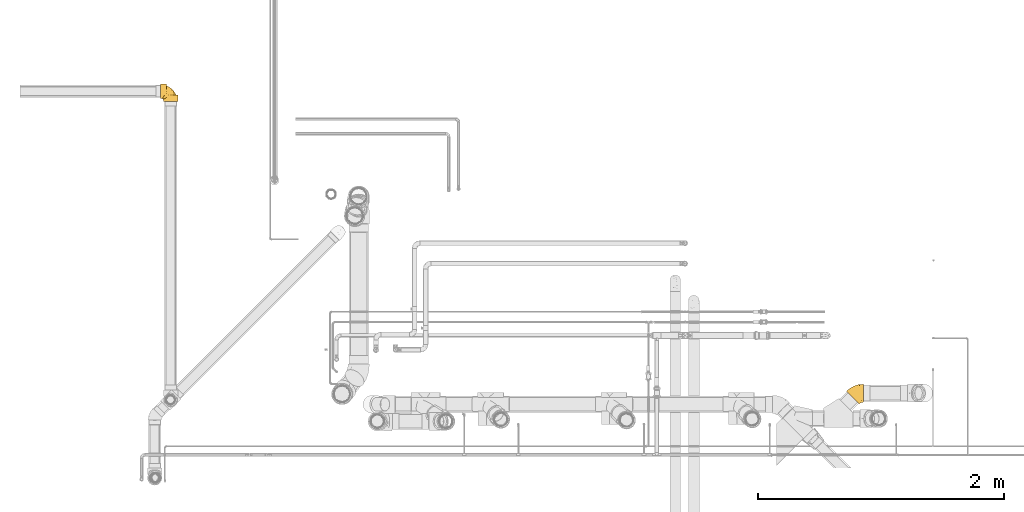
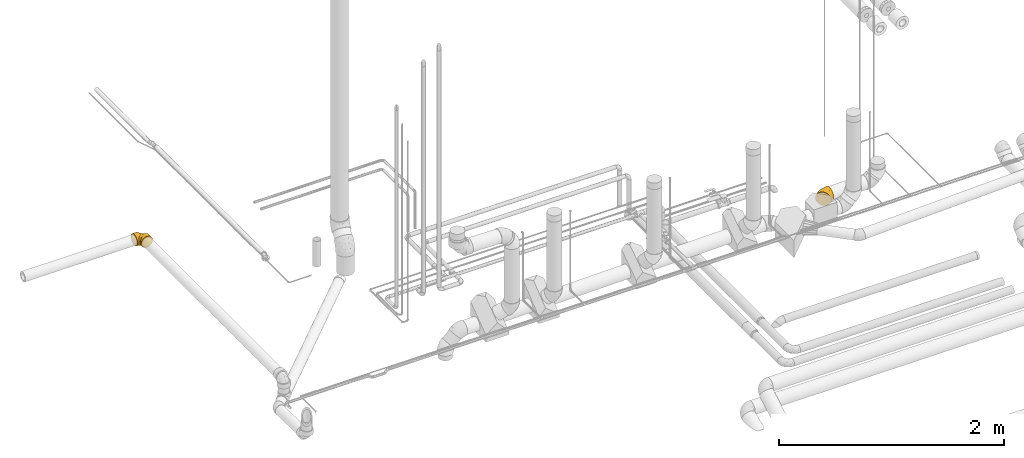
# One storey, part 27 of 156: 2 coverings.
"""IFC2X3 building model written with IfcOpenShell, lengths in millimetres."""

from ifc_helpers import new_model, entity, si_unit, converted_unit, derived_unit, direction, frame, origin_with_axes, place, context, subcontext, project, spatial, open_shell, surface_model, source, transform, mapped, element, save


model = new_model("IFC2X3")

# Units and contexts
model_context = context("Model", 3, precision=0.01, world=frame((0.0, 4.29681676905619e-09, 0.0)), true_north=direction((4.01073788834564e-13, 1.0)))
plan_context = context("Plan", 3, precision=0.01, world=frame((0.0, 4.29681676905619e-09, 0.0)), true_north=direction((4.01073788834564e-13, 1.0)))
body_context = subcontext(model_context, "Body", "Model", "MODEL_VIEW")
ifc_project = project(units=[converted_unit("PLANEANGLEUNIT", "DEGREE", entity("IfcPositiveLengthMeasure", 0.0174532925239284), si_unit("PLANEANGLEUNIT", "RADIAN"), dimensions=[0, 0, 0, 0, 0, 0, 0]), si_unit("AREAUNIT", "SQUARE_METRE"), si_unit("LENGTHUNIT", "METRE", prefix="MILLI"), si_unit("MASSUNIT", "GRAM", prefix="KILO"), si_unit("POWERUNIT", "WATT"), si_unit("PRESSUREUNIT", "PASCAL", prefix="KILO"), si_unit("FORCEUNIT", "NEWTON", prefix="KILO"), si_unit("ELECTRICVOLTAGEUNIT", "VOLT"), si_unit("ELECTRICCURRENTUNIT", "AMPERE"), si_unit("THERMODYNAMICTEMPERATUREUNIT", "DEGREE_CELSIUS"), si_unit("TIMEUNIT", "SECOND"), si_unit("VOLUMEUNIT", "CUBIC_METRE"), derived_unit("LINEARVELOCITYUNIT", [(si_unit("LENGTHUNIT", "METRE"), 1), (si_unit("TIMEUNIT", "SECOND"), -1)]), derived_unit("VOLUMETRICFLOWRATEUNIT", [(si_unit("VOLUMEUNIT", "CUBIC_METRE"), 1), (si_unit("TIMEUNIT", "SECOND"), -1)]), derived_unit("THERMALTRANSMITTANCEUNIT", [(si_unit("POWERUNIT", "WATT"), 1), (si_unit("THERMODYNAMICTEMPERATUREUNIT", "KELVIN"), -1), (si_unit("AREAUNIT", "SQUARE_METRE"), -1)]), derived_unit("SOUNDPRESSUREUNIT", [(si_unit("PRESSUREUNIT", "PASCAL"), 1)])], contexts=[model_context, plan_context])

# Site, building, storey
site_placement = place(None, frame((0.0, -4.29681676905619e-09, 0.0), z_axis=(0.0, 0.0, 1.0), x_axis=(1.0, 0.0, 0.0)))
site = spatial("IfcSite", under=ifc_project, at=site_placement, CompositionType="ELEMENT")
building_placement = place(site_placement, frame((0.0, 4.29681676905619e-09, 0.0), z_axis=(0.0, 0.0, 1.0), x_axis=(1.0, 0.0, 0.0)))
building = spatial("IfcBuilding", under=site, at=building_placement, Name="mc-building", CompositionType="ELEMENT")
storey_placement = place(building_placement, frame((0.0, 0.0, 205200.0), z_axis=(0.0, 0.0, 1.0), x_axis=(1.0, 0.0, 0.0)))
storey = spatial("IfcBuildingStorey", under=building, at=storey_placement, Name="Nivå D + 1,2 m", CompositionType="ELEMENT", Elevation=205200.0)

# Coverings
shared_shape_1 = source(origin_with_axes(), body_context, "Body", "SurfaceModel", [
    surface_model("IfcShellBasedSurfaceModel", [(-12.57935, 83.46014, 28.13327), (-7.77419, 78.65643, 40.8417), (-15.53859, 86.41849, 14.34271), (-15.54084, 86.42074, -14.32665), (-16.53787, 87.41747, 0.0), (15.55838, 55.33086, 67.90986), (25.31029, 45.58189, 72.0902), (-1.30803, 72.19221, 51.97971), (6.57046, 64.31608, 61.11944), (64.32607, 6.57783, 61.10815), (-12.58445, 83.46524, -28.11586), (-7.78218, 78.66441, -40.82479), (-1.31845, 72.20262, -51.96498), (25.29893, 45.59324, -72.08701), (6.5585, 64.32804, -61.10815), (15.54607, 55.34317, -67.90265), (45.57428, 25.32398, -72.0902), (35.44228, 35.45293, -73.5), (35.44228, 35.45293, 73.5), (45.58564, 25.31263, 72.08701), (55.3385, 15.5627, 67.90265), (78.66675, -7.75855, 40.82479), (83.46392, -12.55427, -28.13327), (83.46901, -12.55937, 28.11586), (72.20301, -1.29675, 51.96498), (86.42541, -15.51488, 14.32665), (87.42243, -16.51161, 0.0), (72.1926, -1.28634, -51.97971), (64.31411, 6.58978, -61.11944), (55.32618, 15.57501, -67.90986), (86.42315, -15.51262, -14.34271), (78.65876, -7.75056, -40.8417), (-50.13049, 70.99555, -19.0232), (-50.13049, 63.65287, 36.75), (-50.13049, 73.5, 0.0), (-50.13049, 51.97235, -51.97235), (-50.13049, 63.65287, -36.75), (-50.13049, 36.75, -63.65287), (-50.13049, 19.0232, 70.99555), (-50.13049, 19.0232, -70.99555), (-50.13049, 51.97235, 51.97235), (-50.13049, 70.99555, 19.0232), (-50.13049, 36.75, 63.65287), (-50.13049, 0.0, 73.5), (-50.13049, 0.0, -73.5), (-50.13049, -19.0232, -70.99555), (-50.13049, -36.75, -63.65287), (-50.13049, -73.5, 0.0), (-50.13049, -63.65287, -36.75), (-50.13049, -51.97235, -51.97235), (-50.13049, -70.99555, -19.0232), (-50.13049, -36.75, 63.65287), (-50.13049, -19.0232, 70.99555), (-50.13049, -51.97235, 51.97235), (-50.13049, -63.65287, 36.75), (-50.13049, -70.99555, 19.0232), (4.83503, -11.67031, 69.93732), (-12.17826, -69.76131, 0.0), (5.47078, -63.3378, 16.85755), (24.31494, -58.68898, 0.0), (52.84433, -40.56903, 20.46213), (31.29494, -13.94423, 63.73507), (-11.70629, -55.05754, 43.55916), (-15.49538, -63.93422, 29.88624), (-5.08776, -30.30527, 63.58491), (22.17702, -51.28806, 32.65747), (17.55622, -34.96793, 54.76397), (-17.48087, -44.85241, 55.63124), (18.61218, -45.07313, 44.18221), (-18.80753, 4.12454, 73.5), (51.47794, -35.25184, 33.57398), (57.94614, -40.70867, 0.0), (46.48887, -17.35576, 55.87387), (46.40793, -29.47906, 45.42349), (10.38001, 16.21699, 73.5), (-41.04011, 75.30854, 0.0), (-29.53477, 16.17307, 72.12136), (-16.18054, 66.52309, 46.63532), (-7.93724, 59.30332, 57.11992), (-1.68137, 33.89088, 70.33875), (-27.47392, 30.93318, 67.90515), (-24.2438, 82.26728, 0.0), (-23.33318, 78.00018, 21.34079), (-21.66232, 52.28292, 56.82324), (-36.78494, 45.92085, 58.31147), (-35.68811, 73.39181, 18.04918), (-36.79323, 59.74668, 44.74396), (-27.98962, 69.36433, 34.6544), (-39.44043, 67.50795, 31.41044), (-18.04411, 74.88159, 34.65411), (-9.79368, 45.50308, 64.41177), (-31.94973, 77.11709, 0.0), (-39.4413, 67.50614, -31.41383), (-27.99264, 69.37308, -34.63712), (-36.78628, 59.74819, -44.74397), (-35.67951, 73.39695, -18.03963), (-18.03918, 74.89597, -34.6373), (-16.18685, 66.53454, -46.61941), (-16.39204, 20.02207, -72.04851), (-27.49029, 30.92907, -67.90515), (-1.71248, 33.89286, -70.33364), (-9.79879, 45.52031, -64.40209), (-21.66598, 52.29863, -56.81019), (-7.94533, 59.31824, -57.10625), (-18.80753, 4.12454, -73.5), (-36.78172, 45.92142, -58.31147), (-23.33526, 78.0049, -21.32394), (10.38001, 16.21699, -73.5), (46.4771, -17.3453, -55.88695), (46.39859, -29.47032, -45.43926), (18.224, -44.64342, -44.89812), (17.54393, -34.95729, -54.77708), (31.28299, -13.93207, -63.74459), (4.83503, -11.67031, -69.93732), (-5.06311, -30.28804, -63.5904), (-17.49735, -44.84151, -55.64322), (-11.72328, -55.06085, -43.5597), (22.17562, -51.27957, -32.67435), (52.84141, -40.56523, -20.47861), (5.4699, -63.33576, -16.86688), (-15.50147, -63.93384, -29.88958), (58.21575, -30.60084, -33.66365)], [open_shell([[[0, 1, 2]], [[2, 3, 4]], [[3, 2, 1]], [[5, 6, 7]], [[7, 8, 5]], [[3, 1, 9]], [[9, 1, 7]], [[10, 3, 11]], [[12, 11, 3]], [[3, 13, 12]], [[14, 12, 15]], [[15, 12, 13]], [[13, 16, 17]], [[16, 13, 3]], [[7, 6, 18]], [[18, 19, 20]], [[20, 9, 18]], [[3, 9, 16]], [[9, 21, 22]], [[21, 23, 22]], [[9, 24, 21]], [[25, 26, 23]], [[22, 27, 28]], [[22, 28, 29]], [[29, 16, 9]], [[26, 30, 22]], [[31, 27, 22]], [[9, 22, 29]], [[23, 26, 22]], [[9, 7, 18]], [[32, 33, 34]], [[35, 32, 36]], [[33, 35, 37]], [[32, 35, 33]], [[38, 37, 39]], [[33, 38, 40]], [[33, 41, 34]], [[40, 38, 42]], [[37, 38, 33]], [[39, 43, 38]], [[39, 44, 43]], [[44, 45, 46]], [[47, 44, 46]], [[47, 46, 48]], [[48, 46, 49]], [[47, 48, 50]], [[43, 51, 52]], [[53, 51, 43]], [[54, 47, 55]], [[47, 54, 53]], [[44, 47, 53]], [[53, 43, 44]], [[20, 19, 56]], [[55, 47, 57]], [[58, 57, 59]], [[59, 60, 58]], [[9, 20, 61]], [[62, 54, 63]], [[52, 51, 64]], [[60, 65, 58]], [[66, 67, 68]], [[66, 64, 67]], [[52, 69, 43]], [[69, 52, 56]], [[54, 62, 53]], [[20, 56, 61]], [[61, 64, 66]], [[70, 65, 60]], [[59, 71, 60]], [[71, 25, 60]], [[72, 24, 9]], [[70, 73, 68]], [[70, 21, 73]], [[25, 71, 26]], [[67, 51, 53]], [[52, 64, 56]], [[72, 73, 24]], [[62, 68, 67]], [[74, 19, 18]], [[56, 74, 69]], [[65, 62, 63]], [[55, 58, 63]], [[19, 74, 56]], [[72, 61, 66]], [[73, 72, 66]], [[61, 72, 9]], [[21, 24, 73]], [[55, 57, 58]], [[68, 62, 65]], [[60, 25, 23]], [[51, 67, 64]], [[64, 61, 56]], [[62, 67, 53]], [[55, 63, 54]], [[65, 63, 58]], [[60, 23, 70]], [[21, 70, 23]], [[70, 68, 65]], [[66, 68, 73]], [[75, 34, 41]], [[43, 69, 76]], [[7, 77, 78]], [[79, 80, 76]], [[2, 81, 82]], [[80, 83, 84]], [[75, 41, 85]], [[84, 86, 40]], [[82, 85, 87]], [[86, 33, 40]], [[86, 87, 88]], [[33, 86, 88]], [[78, 77, 83]], [[88, 41, 33]], [[69, 74, 79]], [[80, 84, 42]], [[0, 89, 1]], [[8, 90, 5]], [[6, 5, 79]], [[6, 74, 18]], [[85, 91, 75]], [[90, 8, 78]], [[80, 79, 90]], [[42, 38, 80]], [[7, 1, 77]], [[40, 42, 84]], [[91, 85, 82]], [[86, 77, 87]], [[76, 80, 38]], [[77, 89, 87]], [[0, 2, 82]], [[82, 87, 89]], [[87, 85, 88]], [[79, 74, 6]], [[41, 88, 85]], [[77, 86, 83]], [[86, 84, 83]], [[1, 89, 77]], [[0, 82, 89]], [[90, 78, 83]], [[7, 78, 8]], [[80, 90, 83]], [[5, 90, 79]], [[81, 2, 4]], [[81, 91, 82]], [[43, 76, 38]], [[79, 76, 69]], [[92, 93, 94]], [[32, 75, 95]], [[96, 11, 97]], [[81, 4, 3]], [[98, 99, 100]], [[101, 102, 103]], [[44, 39, 104]], [[97, 94, 93]], [[101, 99, 102]], [[32, 95, 92]], [[105, 37, 35]], [[39, 37, 99]], [[94, 97, 102]], [[95, 106, 93]], [[3, 10, 106]], [[94, 105, 35]], [[102, 97, 103]], [[100, 101, 15]], [[10, 11, 96]], [[11, 12, 97]], [[36, 94, 35]], [[92, 94, 36]], [[96, 93, 106]], [[103, 12, 14]], [[99, 98, 39]], [[15, 13, 100]], [[13, 17, 107]], [[95, 91, 106]], [[99, 37, 105]], [[107, 100, 13]], [[98, 107, 104]], [[107, 98, 100]], [[32, 92, 36]], [[3, 106, 81]], [[95, 93, 92]], [[105, 94, 102]], [[99, 105, 102]], [[93, 96, 97]], [[10, 96, 106]], [[12, 103, 97]], [[14, 15, 101]], [[101, 103, 14]], [[99, 101, 100]], [[106, 91, 81]], [[75, 32, 34]], [[75, 91, 95]], [[39, 98, 104]], [[28, 27, 108]], [[109, 110, 111]], [[45, 44, 104]], [[112, 108, 111]], [[16, 29, 113]], [[114, 113, 112]], [[115, 116, 49]], [[113, 114, 45]], [[47, 50, 57]], [[115, 111, 110]], [[117, 118, 119]], [[59, 57, 119]], [[116, 48, 49]], [[116, 120, 48]], [[45, 114, 46]], [[115, 46, 114]], [[113, 104, 107]], [[115, 114, 111]], [[107, 17, 16]], [[117, 119, 120]], [[28, 108, 112]], [[57, 50, 119]], [[113, 29, 112]], [[113, 45, 104]], [[120, 50, 48]], [[27, 31, 109]], [[118, 121, 22]], [[111, 108, 109]], [[110, 117, 116]], [[59, 119, 118]], [[30, 26, 71]], [[59, 118, 71]], [[30, 71, 118]], [[117, 109, 121]], [[31, 22, 121]], [[30, 118, 22]], [[114, 112, 111]], [[113, 107, 16]], [[109, 108, 27]], [[112, 29, 28]], [[46, 115, 49]], [[117, 120, 116]], [[50, 120, 119]], [[117, 121, 118]], [[31, 121, 109]], [[117, 110, 109]], [[115, 110, 116]]])]),
])
covering_1_placement = place(storey_placement, frame((328364.70631, 462815.30448, 4227.77338999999), z_axis=(-0.00224100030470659, -0.0269550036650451, 0.999634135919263), x_axis=(-0.999997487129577, -5.0177040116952e-09, -0.0022418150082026)))
element("IfcCovering", 1, at=covering_1_placement, inside=storey, Name="BI17T - Cellegummi 13 mm SPV fett", PredefinedType="INSULATION", context=body_context, shape_type="MappedRepresentation", body=[
    mapped(shared_shape_1, transform((0.0, 0.0, 0.0), scale=1.0)),
])
shared_shape_2 = source(origin_with_axes(), body_context, "Body", "SurfaceModel", [
    surface_model("IfcShellBasedSurfaceModel", [(-32.0002, 4.22808, -53.19455), (-32.0002, 0.0, -59.25), (-32.0002, 8.41085, -58.64998), (-32.0002, -8.40767, -49.81096), (-32.0002, -15.33503, -57.2311), (-32.0002, 16.6065, -56.87518), (-32.0002, 17.26197, -54.25), (-32.0002, 24.46457, -53.96339), (-32.0002, 20.8661, -54.17668), (-32.0002, -20.08978, -43.91948), (-32.0002, -29.625, -51.31201), (-32.0002, -30.16019, -35.57071), (-32.0002, -41.89608, -41.89608), (-32.0002, -37.95287, -25.06845), (-32.0002, -42.89141, -12.96252), (-32.0002, -51.31201, -29.625), (-32.0002, -57.2311, -15.33503), (-32.0002, -44.58388, 0.0), (-32.0002, -59.25, 0.0), (-32.0002, 20.8661, 54.17668), (-32.0002, 24.46457, 53.96339), (-32.0002, 16.6065, 56.87518), (-32.0002, -8.40767, 49.81096), (-32.0002, 4.22808, 53.19455), (-32.0002, 0.0, 59.25), (-32.0002, 17.26197, 54.25), (-32.0002, 8.41085, 58.64998), (-32.0002, -15.33503, 57.2311), (-32.0002, -20.08978, 43.91948), (-32.0002, -57.2311, 15.33503), (-32.0002, -42.89141, 12.96252), (-32.0002, -51.31201, 29.625), (-32.0002, -37.95287, 25.06845), (-32.0002, -29.625, 51.31201), (-32.0002, -30.16019, 35.57071), (-32.0002, -41.89608, 41.89608), (-82.5002, 0.0, 59.25), (-82.5002, 15.33503, 57.2311), (-82.5002, 29.625, 51.31201), (-82.5002, 51.31201, 29.625), (-82.5002, 57.2311, 15.33503), (-82.5002, 41.89608, 41.89608), (-82.5002, -15.33503, 57.2311), (-82.5002, -41.89608, 41.89608), (-82.5002, -29.625, 51.31201), (-82.5002, -57.2311, 15.33503), (-82.5002, -51.31201, 29.625), (-82.5002, 57.2311, -15.33503), (-82.5002, -57.2311, -15.33503), (-82.5002, -59.25, 0.0), (-82.5002, 51.31201, -29.625), (-82.5002, 29.625, -51.31201), (-82.5002, 15.33503, -57.2311), (-82.5002, 41.89608, -41.89608), (-82.5002, -41.89608, -41.89608), (-82.5002, -51.31201, -29.625), (-82.5002, -29.625, -51.31201), (-82.5002, 0.0, -59.25), (-82.5002, -15.33503, -57.2311), (-82.5002, 59.25, 0.0), (-66.45339, 59.25, 0.0), (-82.5002, 58.24055, 7.66751), (-64.03884, 54.29672, 23.71559), (-82.5002, 54.27156, 22.48001), (-66.18569, 58.68653, 8.1519), (-59.58853, 46.1673, 37.13681), (-65.38244, 57.01529, 16.11891), (-62.12951, 50.63153, 30.77353), (-56.28798, 41.12001, 42.65802), (-52.0237, 35.82362, 47.19355), (-39.78226, 26.81988, 52.83234), (-46.55247, 30.81047, 50.60907), (-52.0237, 35.82362, -47.19355), (-46.55247, 30.81047, -50.60907), (-66.18569, 58.68653, -8.1519), (-82.5002, 58.24055, -7.66751), (-39.78226, 26.81988, -52.83234), (-64.03884, 54.29672, -23.71559), (-82.5002, 54.27156, -22.48001), (-59.58853, 46.1673, -37.13681), (-65.38244, 57.01529, -16.11891), (-56.28798, 41.12001, -42.65802), (-62.12951, 50.63153, -30.77353), (41.896, 32.0003, -41.89608), (30.16012, 32.00027, -35.57071), (29.62492, 32.00027, -51.31201), (37.95279, 32.00029, -25.06845), (20.08971, 32.00025, -43.91948), (15.33495, 32.00024, -57.2311), (51.31193, 32.00032, -29.625), (57.23103, 32.00034, -15.33503), (42.89133, 32.0003, -12.96252), (44.5838, 32.00031, 0.0), (59.24992, 32.00034, 0.0), (-8.39482, 32.00018, -58.65229), (-8e-05, 32.0002, -59.25), (-4.22815, 32.00019, -53.19455), (-17.26205, 32.00016, -54.25), (-16.59757, 32.00016, -56.87781), (8.40759, 32.00022, -49.81096), (-20.86618, 32.00015, -54.17668), (-24.46464, 32.00014, -53.96339), (57.7644, 32.00034, 13.18437), (42.89133, 32.0003, 12.96252), (53.38233, 32.00033, 25.70761), (37.95279, 32.00029, 25.06845), (46.32344, 32.00031, 36.94177), (30.16012, 32.00027, 35.57071), (20.08971, 32.00025, 43.91948), (36.94169, 32.00029, 46.32352), (25.70753, 32.00026, 53.38241), (8.40759, 32.00022, 49.81096), (13.18429, 32.00023, 57.76448), (-24.46464, 32.00014, 53.96339), (-20.86618, 32.00015, 54.17668), (-16.60658, 32.00016, 56.87518), (-8e-05, 32.0002, 59.25), (-4.22815, 32.00019, 53.19455), (-8.41093, 32.00018, 58.64998), (-17.26205, 32.00016, 54.25), (25.70741, 82.50026, 53.38241), (36.94157, 82.50029, 46.32352), (46.32332, 82.50031, 36.94177), (53.38221, 82.50032, 25.70761), (57.76428, 82.50034, 13.18437), (13.18417, 82.50023, 57.76448), (-0.0002, 82.5002, 59.25), (59.2498, 82.50034, 0.0), (57.2309, 82.50033, -15.33503), (-15.33523, 82.50016, 57.2311), (51.31181, 82.50032, -29.625), (-29.6252, 82.50012, 51.31201), (-41.89628, 82.5001, 41.89608), (-51.3122, 82.50008, 29.625), (29.6248, 82.50027, -51.31201), (15.33483, 82.50023, -57.2311), (-57.2313, 82.50006, 15.33503), (41.89588, 82.5003, -41.89608), (-0.0002, 82.5002, -59.25), (-59.2502, 82.50006, 0.0), (-57.76468, 82.50006, -13.18437), (-25.70781, 82.50013, -53.38241), (-53.38261, 82.50007, -25.70761), (-46.32371, 82.50009, -36.94177), (-36.94197, 82.50011, -46.32352), (-13.18456, 82.50017, -57.76448), (-35.82374, 52.02361, 47.19355), (-30.81058, 46.55239, 50.60907), (-58.68669, 66.18555, 8.1519), (-58.24075, 82.50006, 7.66751), (-26.81997, 39.78219, 52.83234), (-54.29687, 64.03871, 23.71559), (-54.27176, 82.50007, 22.48001), (-46.16745, 59.58842, 37.13681), (-59.25016, 66.45325, 0.0), (-57.01545, 65.38231, 16.11891), (-41.12015, 56.28788, 42.65802), (-50.63168, 62.12938, 30.77353), (-58.68669, 66.18555, -8.1519), (-57.01545, 65.38231, -16.11891), (-50.63168, 62.12938, -30.77353), (-54.29687, 64.03871, -23.71559), (-46.16745, 59.58842, -37.13681), (-41.12015, 56.28788, -42.65802), (-35.82374, 52.02361, -47.19355), (-26.81997, 39.78219, -52.83234), (-30.81058, 46.55239, -50.60907), (-2.34326, 2.34325, 44.61828), (-7.34981, -31.74964, 0.0), (-11.88961, -24.72349, 28.94167), (2.49392, -22.28316, 13.97018), (-9.92394, -14.49885, 38.07405), (9.10909, -9.10907, 26.99805), (27.12062, 5.75207, 17.59647), (14.19677, -14.19674, 0.0), (31.74962, 7.34988, 0.0), (-24.16382, 24.16376, 54.25), (11.94444, 4.57737, 36.71243), (24.76315, 11.80769, 28.81725), (-9.19125, 11.22496, 50.52862), (-41.88732, 41.88723, 48.11256), (-61.44504, 61.44489, 12.77853), (-28.51223, 20.33396, 54.25), (-20.33403, 28.51218, 54.25), (-57.00703, 57.00689, 28.0306), (-50.15356, 50.15344, 39.90153), (-62.52441, 62.52426, 0.0), (-59.60281, 59.60267, -20.76595), (-53.80998, 53.80985, -34.42785), (-61.84449, 61.84434, -10.16877), (-46.15409, 46.15398, -44.45133), (-37.33821, 37.33811, -50.95031), (-20.33403, 28.51218, -54.25), (-28.51223, 20.33396, -54.25), (-24.16382, 24.16376, -54.25), (-2.34326, 2.34325, -44.61828), (14.49882, 9.92398, -38.07405), (-4.57734, -11.94445, -36.71243), (24.72346, 11.88966, -28.94167), (9.10909, -9.10907, -26.99805), (-11.22498, 9.19123, -50.52862), (22.28316, -2.49387, -13.97018), (-5.75201, -27.12064, -17.59647), (-11.80763, -24.76318, -28.81725)], [open_shell([[[0, 1, 2]], [[3, 4, 1]], [[2, 5, 6]], [[7, 8, 5]], [[0, 3, 1]], [[6, 0, 2]], [[8, 6, 5]], [[4, 3, 9]], [[10, 9, 11]], [[9, 10, 4]], [[12, 11, 13]], [[11, 12, 10]], [[13, 14, 15]], [[14, 16, 15]], [[16, 14, 17]], [[16, 17, 18]], [[13, 15, 12]], [[19, 20, 21]], [[22, 23, 24]], [[25, 21, 26]], [[21, 25, 19]], [[24, 27, 22]], [[23, 26, 24]], [[23, 25, 26]], [[22, 27, 28]], [[29, 30, 31]], [[18, 17, 29]], [[30, 32, 31]], [[17, 30, 29]], [[28, 33, 34]], [[33, 28, 27]], [[32, 35, 31]], [[35, 32, 34]], [[35, 34, 33]], [[36, 37, 38]], [[36, 38, 39]], [[39, 40, 36]], [[39, 38, 41]], [[36, 40, 42]], [[42, 43, 44]], [[43, 42, 45]], [[43, 45, 46]], [[45, 42, 47]], [[45, 48, 49]], [[47, 42, 40]], [[48, 45, 47]], [[50, 48, 47]], [[51, 52, 50]], [[51, 50, 53]], [[52, 54, 50]], [[50, 55, 48]], [[50, 54, 55]], [[56, 57, 58]], [[57, 56, 54]], [[52, 57, 54]], [[47, 40, 59]], [[60, 59, 61]], [[62, 63, 39]], [[61, 40, 64]], [[65, 39, 41]], [[66, 64, 40]], [[67, 62, 39]], [[65, 67, 39]], [[40, 63, 66]], [[41, 68, 65]], [[68, 41, 69]], [[70, 38, 37]], [[38, 71, 69]], [[41, 38, 69]], [[26, 37, 36]], [[60, 61, 64]], [[71, 38, 70]], [[20, 70, 21]], [[66, 63, 62]], [[21, 70, 37]], [[37, 26, 21]], [[36, 24, 26]], [[27, 36, 42]], [[24, 36, 27]], [[35, 33, 44]], [[33, 27, 42]], [[44, 33, 42]], [[44, 43, 35]], [[31, 46, 45]], [[29, 45, 49]], [[35, 46, 31]], [[31, 45, 29]], [[49, 18, 29]], [[46, 35, 43]], [[49, 48, 16]], [[18, 49, 16]], [[55, 15, 16]], [[12, 15, 55]], [[48, 55, 16]], [[55, 54, 12]], [[10, 56, 58]], [[4, 58, 57]], [[12, 56, 10]], [[10, 58, 4]], [[57, 1, 4]], [[56, 12, 54]], [[2, 57, 52]], [[51, 72, 73]], [[72, 51, 53]], [[74, 47, 75]], [[52, 51, 76]], [[73, 76, 51]], [[1, 57, 2]], [[5, 76, 7]], [[5, 2, 52]], [[77, 50, 78]], [[76, 5, 52]], [[79, 53, 50]], [[75, 59, 60]], [[47, 80, 78]], [[60, 74, 75]], [[79, 81, 53]], [[82, 79, 50]], [[77, 78, 80]], [[74, 80, 47]], [[82, 50, 77]], [[53, 81, 72]], [[83, 84, 85]], [[84, 83, 86]], [[85, 87, 88]], [[87, 85, 84]], [[89, 90, 91]], [[91, 86, 89]], [[92, 91, 90]], [[90, 93, 92]], [[89, 86, 83]], [[94, 95, 96]], [[97, 98, 94]], [[99, 95, 88]], [[99, 96, 95]], [[100, 101, 98]], [[97, 100, 98]], [[96, 97, 94]], [[88, 87, 99]], [[102, 103, 92]], [[104, 105, 103]], [[103, 102, 104]], [[106, 107, 105]], [[108, 107, 109]], [[109, 107, 106]], [[108, 109, 110]], [[106, 105, 104]], [[111, 108, 112]], [[113, 114, 115]], [[111, 116, 117]], [[118, 117, 116]], [[119, 118, 115]], [[119, 117, 118]], [[119, 115, 114]], [[116, 111, 112]], [[108, 110, 112]], [[92, 93, 102]], [[120, 121, 122]], [[120, 122, 123]], [[120, 124, 125]], [[124, 120, 123]], [[126, 124, 127]], [[125, 124, 126]], [[126, 128, 129]], [[129, 130, 131]], [[132, 131, 130]], [[133, 132, 134]], [[133, 135, 136]], [[128, 126, 127]], [[132, 130, 137]], [[132, 137, 134]], [[135, 138, 136]], [[135, 133, 134]], [[136, 138, 139]], [[140, 141, 142]], [[140, 139, 138]], [[141, 143, 142]], [[144, 143, 141]], [[141, 140, 145]], [[138, 145, 140]], [[130, 129, 128]], [[102, 127, 124]], [[124, 123, 104]], [[122, 106, 123]], [[93, 127, 102]], [[102, 124, 104]], [[123, 106, 104]], [[122, 109, 106]], [[109, 121, 120]], [[110, 120, 125]], [[112, 125, 126]], [[109, 120, 110]], [[110, 125, 112]], [[126, 116, 112]], [[121, 109, 122]], [[118, 126, 129]], [[131, 146, 147]], [[146, 131, 132]], [[148, 136, 149]], [[129, 131, 150]], [[147, 150, 131]], [[116, 126, 118]], [[115, 150, 113]], [[115, 118, 129]], [[151, 133, 152]], [[150, 115, 129]], [[153, 132, 133]], [[149, 139, 154]], [[136, 155, 152]], [[154, 148, 149]], [[153, 156, 132]], [[157, 153, 133]], [[151, 152, 155]], [[148, 155, 136]], [[157, 133, 151]], [[132, 156, 146]], [[158, 154, 139]], [[159, 140, 142]], [[158, 139, 140]], [[160, 142, 143]], [[159, 158, 140]], [[161, 159, 142]], [[162, 160, 143]], [[163, 162, 143]], [[161, 142, 160]], [[143, 144, 163]], [[144, 164, 163]], [[164, 144, 141]], [[165, 141, 145]], [[141, 166, 164]], [[94, 145, 138]], [[166, 141, 165]], [[101, 165, 98]], [[98, 165, 145]], [[145, 94, 98]], [[138, 95, 94]], [[138, 135, 88]], [[95, 138, 88]], [[134, 85, 88]], [[85, 134, 137]], [[135, 134, 88]], [[137, 83, 85]], [[89, 130, 128]], [[90, 128, 127]], [[83, 130, 89]], [[89, 128, 90]], [[127, 93, 90]], [[130, 83, 137]], [[108, 111, 167]], [[30, 17, 168]], [[32, 169, 34]], [[30, 168, 170]], [[167, 28, 171]], [[172, 169, 170]], [[173, 174, 175]], [[173, 170, 174]], [[28, 167, 22]], [[23, 176, 25]], [[117, 176, 23]], [[177, 178, 107]], [[22, 179, 23]], [[167, 179, 22]], [[117, 23, 179]], [[168, 174, 170]], [[172, 170, 173]], [[173, 103, 105]], [[30, 170, 32]], [[178, 173, 105]], [[103, 175, 92]], [[107, 178, 105]], [[173, 178, 172]], [[28, 34, 171]], [[177, 108, 167]], [[177, 171, 172]], [[176, 117, 119]], [[179, 111, 117]], [[111, 179, 167]], [[170, 169, 32]], [[108, 177, 107]], [[177, 167, 171]], [[178, 177, 172]], [[171, 169, 172]], [[175, 103, 173]], [[169, 171, 34]], [[180, 71, 70]], [[148, 181, 155]], [[180, 70, 150]], [[176, 20, 182]], [[113, 183, 114]], [[19, 182, 20]], [[20, 150, 70]], [[151, 184, 157]], [[68, 180, 185]], [[180, 68, 69]], [[184, 65, 185]], [[147, 146, 180]], [[62, 67, 184]], [[156, 153, 185]], [[186, 60, 64]], [[181, 62, 184]], [[66, 181, 64]], [[20, 176, 113]], [[183, 113, 176]], [[114, 183, 119]], [[184, 67, 65]], [[19, 25, 182]], [[69, 71, 180]], [[181, 66, 62]], [[156, 185, 180]], [[147, 180, 150]], [[185, 65, 68]], [[186, 148, 154]], [[64, 181, 186]], [[153, 157, 184]], [[151, 181, 184]], [[180, 146, 156]], [[148, 186, 181]], [[151, 155, 181]], [[185, 153, 184]], [[20, 113, 150]], [[82, 77, 187]], [[187, 188, 82]], [[60, 186, 74]], [[186, 189, 74]], [[164, 190, 163]], [[80, 74, 189]], [[165, 191, 166]], [[79, 188, 190]], [[76, 73, 191]], [[191, 72, 190]], [[159, 189, 158]], [[100, 97, 192]], [[165, 7, 76]], [[193, 6, 8]], [[160, 162, 188]], [[7, 194, 193]], [[159, 161, 187]], [[190, 72, 81]], [[189, 186, 158]], [[190, 81, 79]], [[191, 73, 72]], [[187, 77, 80]], [[189, 159, 187]], [[188, 79, 82]], [[162, 190, 188]], [[187, 160, 188]], [[164, 166, 191]], [[101, 100, 192]], [[194, 7, 101]], [[7, 193, 8]], [[101, 192, 194]], [[101, 7, 165]], [[187, 161, 160]], [[162, 163, 190]], [[191, 165, 76]], [[190, 164, 191]], [[80, 189, 187]], [[158, 186, 154]], [[195, 196, 197]], [[196, 198, 199]], [[0, 6, 194]], [[9, 197, 11]], [[99, 87, 195]], [[200, 195, 3]], [[201, 198, 86]], [[0, 200, 3]], [[17, 14, 168]], [[14, 13, 202]], [[11, 203, 13]], [[195, 197, 9]], [[13, 203, 202]], [[87, 84, 196]], [[96, 0, 194]], [[202, 203, 199]], [[195, 200, 99]], [[197, 196, 199]], [[195, 87, 196]], [[99, 200, 96]], [[0, 96, 200]], [[9, 3, 195]], [[198, 196, 84]], [[197, 203, 11]], [[84, 86, 198]], [[174, 201, 175]], [[91, 92, 175]], [[199, 201, 202]], [[199, 198, 201]], [[201, 91, 175]], [[202, 168, 14]], [[91, 201, 86]], [[202, 201, 174]], [[96, 194, 97]], [[203, 197, 199]], [[202, 174, 168]]])]),
])
covering_2_placement = place(storey_placement, frame((322778.39808, 465271.95462, 4241.63939), z_axis=(-0.000387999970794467, 0.0, 0.999999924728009), x_axis=(0.0, 1.0, 0.0)))
element("IfcCovering", 2, at=covering_2_placement, inside=storey, Name="BI17T - Cellegummi 13 mm SPV fett", PredefinedType="INSULATION", context=body_context, shape_type="MappedRepresentation", body=[
    mapped(shared_shape_2, transform((0.0, 0.0, 0.0), scale=1.0)),
])

save(model, "model.ifc")
